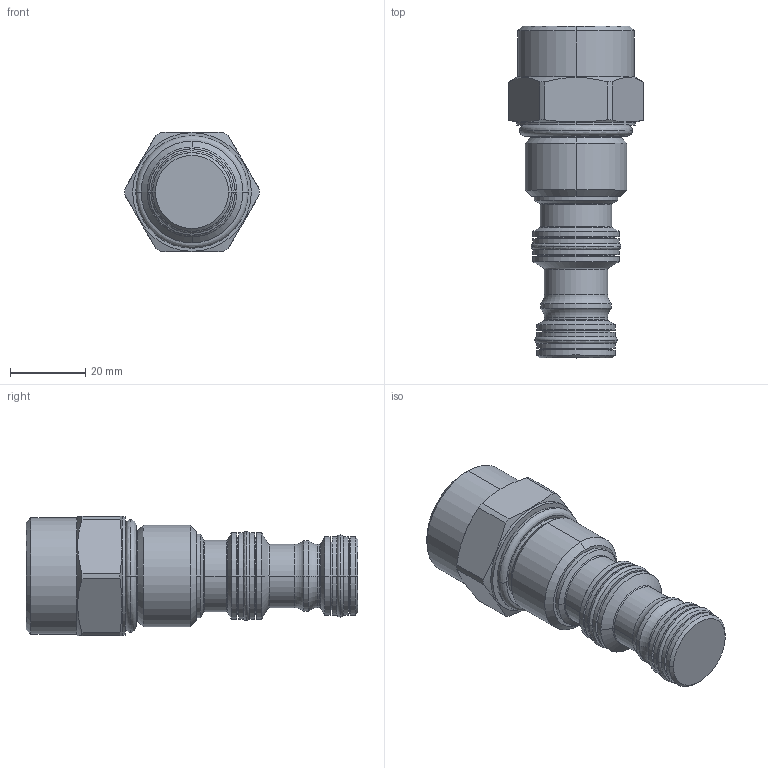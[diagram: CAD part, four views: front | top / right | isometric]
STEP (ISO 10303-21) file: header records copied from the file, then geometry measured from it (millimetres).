
FILE_DESCRIPTION((''),'2;1');
FILE_NAME('5283050_SW0001','2009-02-02T',('jcs'),(''),'PRO/ENGINEER BY PARAMETRIC TECHNOLOGY CORPORATION, 2008010','PRO/ENGINEER BY PARAMETRIC TECHNOLOGY CORPORATION, 2008010','');
FILE_SCHEMA(('CONFIG_CONTROL_DESIGN'));
Length unit declared in the file: inch
Products named in the file (1): 5283050_SW0001
Bounding box: 35.81 x 88.16 x 31.75 mm (x, y, z)
Volume: 45088 mm3; surface area: 11334.5 mm2
Topology: 4 solids, 4 shells, 146 faces, 304 edges, 170 vertices
Faces by surface type: cylinder 52, cone 28, torus 24, revolution 24, plane 18
Entity records: 4356 total; most frequent: CARTESIAN_POINT 1168, DIRECTION 710, ORIENTED_EDGE 608, EDGE_CURVE 304, AXIS2_PLACEMENT_3D 300, CIRCLE 178, VERTEX_POINT 170, EDGE_LOOP 156
